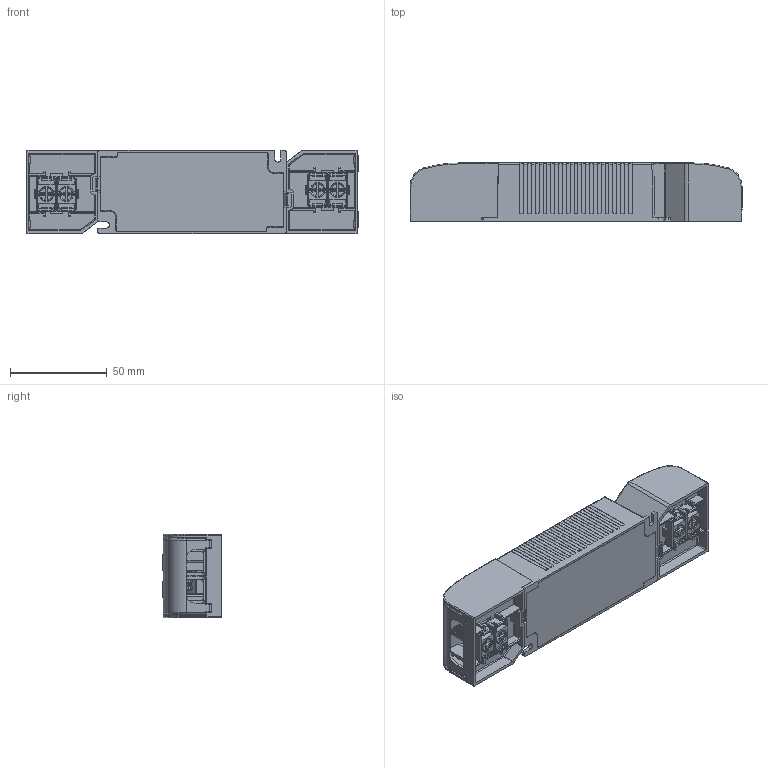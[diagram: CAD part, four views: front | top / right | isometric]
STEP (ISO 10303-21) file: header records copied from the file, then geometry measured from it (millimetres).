
FILE_DESCRIPTION((''),'2;1');
FILE_NAME('ZHUANGPEITU-20200910_ASM','2025-02-12T',('Arbiter.he'),(''),'CREO PARAMETRIC BY PTC INC, 2018220','CREO PARAMETRIC BY PTC INC, 2018220','');
FILE_SCHEMA(('CONFIG_CONTROL_DESIGN'));
Length unit declared in the file: millimetre
Products named in the file (18): 40W-PCB_9_1_1; 1N_ANY_1_1_1_1; 1N_DUMMY_ANY_1_1_1_1; 5N_ANY_1_1_1_1; RGBW-CV_ASSEMBLY_ANY_ASM_1_ASM__ASM; PCB_ASM_4_ASM_1_ASM_ASM_1_ASM; TOP_1_1; BOTTOM_1_1; 11_ASM_1_ASM_ASM_1_ASM; 4N_ANY_1_1_1_1; ZHUANGPEITU_ASM_84_ASM_9_ASM_AS_ASM; CEGAI-01_55_10_21_3; CEGAI-22_17_4_12_2; YAXIANBAN_5_2_1_1; ASM0006_ASM; 132021XXXX-1_20200908__ASM_1_ASM; 1320211995-1_20200910__ASM; ZHUANGPEITU-20200910_ASM
Assembly tree (22 placements, depth 5):
  ZHUANGPEITU-20200910_ASM
    ZHUANGPEITU_ASM_84_ASM_9_ASM_AS_ASM
      40W-PCB_9_1_1
      PCB_ASM_4_ASM_1_ASM_ASM_1_ASM
        RGBW-CV_ASSEMBLY_ANY_ASM_1_ASM__ASM
          1N_ANY_1_1_1_1
          1N_DUMMY_ANY_1_1_1_1
          5N_ANY_1_1_1_1
      11_ASM_1_ASM_ASM_1_ASM
        TOP_1_1
        BOTTOM_1_1
      4N_ANY_1_1_1_1
    1320211995-1_20200910__ASM  x2
      132021XXXX-1_20200908__ASM_1_ASM
        ASM0006_ASM
          CEGAI-01_55_10_21_3
          CEGAI-22_17_4_12_2
          YAXIANBAN_5_2_1_1  x2
    4N_ANY_1_1_1_1
    YAXIANBAN_5_2_1_1  x2
Bounding box: 171.15 x 30.15 x 43.2 mm (x, y, z)
Volume: 60846.7 mm3; surface area: 90636.3 mm2
Topology: 18 solids, 18 shells, 3316 faces, 9568 edges, 6295 vertices
Faces by surface type: plane 2435, cylinder 744, torus 64, cone 26, bspline 26, sphere 15, extrusion 6
Entity records: 57984 total; most frequent: CARTESIAN_POINT 11742, ORIENTED_EDGE 9932, DIRECTION 8806, EDGE_CURVE 4966, VECTOR 4010, LINE 4004, VERTEX_POINT 3276, AXIS2_PLACEMENT_3D 2398
